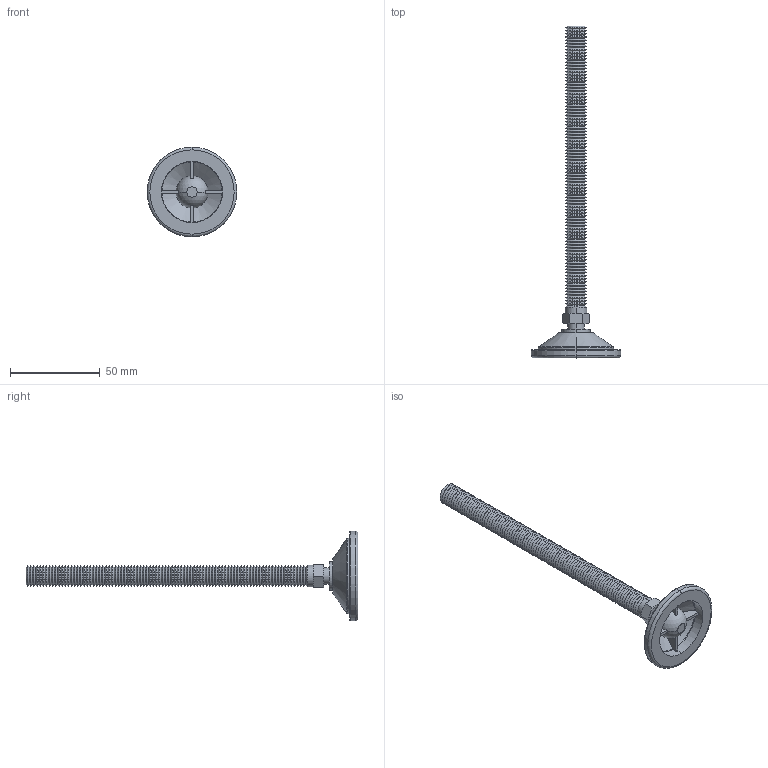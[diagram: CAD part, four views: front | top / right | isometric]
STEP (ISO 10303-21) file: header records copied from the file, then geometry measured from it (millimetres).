
FILE_DESCRIPTION (( 'STEP AP203' ), '1' );
FILE_NAME ('34741.W0128.step', '2016-09-22T07:42:42', ( 'User' ), ( '' ), 'SwSTEP 2.0', 'SolidWorks 2009', '' );
FILE_SCHEMA (( 'CONFIG_CONTROL_DESIGN' ));
Length unit declared in the file: millimetre
Products named in the file (3): Part1_34741.W0128; Part2_34741.W0128; 34741.W0128
Assembly tree (2 placements, depth 2):
  34741.W0128
    Part2_34741.W0128
    Part1_34741.W0128
Bounding box: 50 x 185 x 50 mm (x, y, z)
Volume: 27394.7 mm3; surface area: 16846.1 mm2
Topology: 2 solids, 2 shells, 436 faces, 908 edges, 478 vertices
Faces by surface type: cone 378, plane 26, cylinder 14, torus 12, sphere 6
Entity records: 11645 total; most frequent: DIRECTION 2202, CARTESIAN_POINT 2021, ORIENTED_EDGE 1798, AXIS2_PLACEMENT_3D 902, EDGE_CURVE 899, VERTEX_POINT 473, CIRCLE 461, EDGE_LOOP 442
